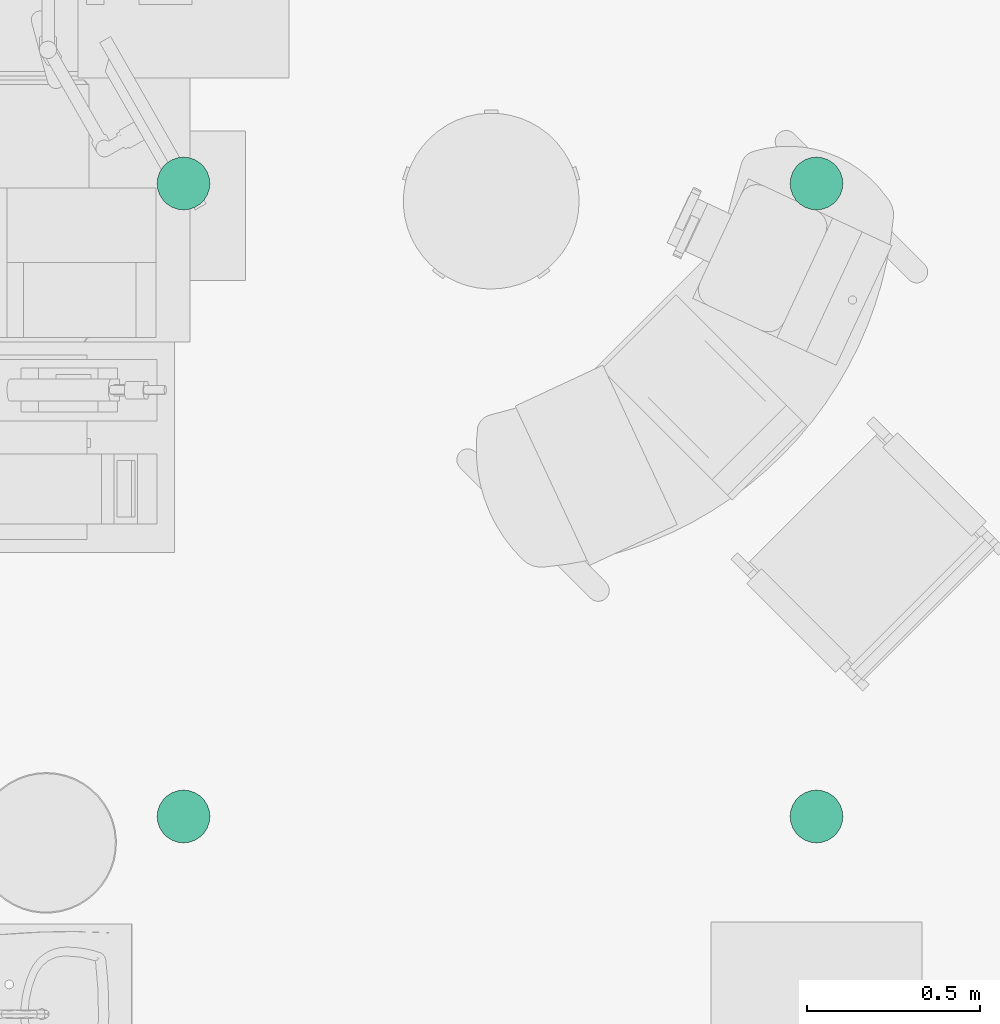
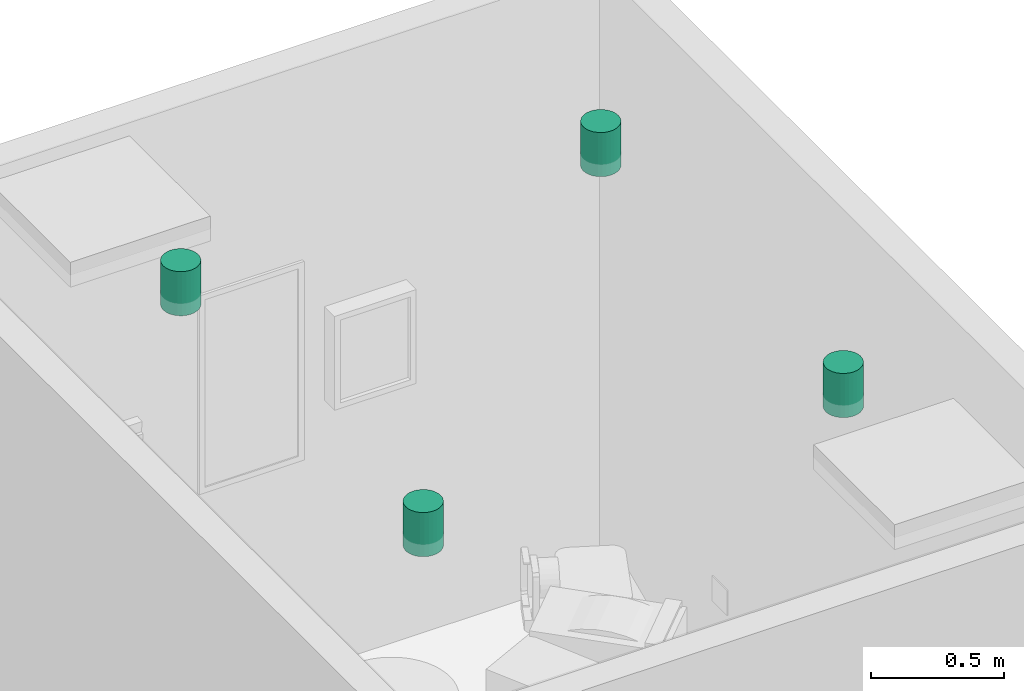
# One storey, part 4 of 12: 4 flow terminals.
"""IFC2X3 building model written with IfcOpenShell, lengths in feet."""

from ifc_helpers import new_model, entity, si_unit, converted_unit, derived_unit, direction, frame, frame_2d, origin, place, context, subcontext, project, spatial, circle, extrude, source, transform, mapped, type_object, type_shapes, element, save


model = new_model("IFC2X3")

# Units and contexts
model_context = context("Model", 3, precision=0.0001, world=origin(), true_north=direction((6.12303176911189e-17, 1.0)))
body_context = subcontext(model_context, "Body", "Model", "MODEL_VIEW")
ifc_project = project(units=[converted_unit("LENGTHUNIT", "FOOT", entity("IfcRatioMeasure", 0.3048), si_unit("LENGTHUNIT", "METRE"), dimensions=[1, 0, 0, 0, 0, 0, 0]), converted_unit("AREAUNIT", "SQUARE FOOT", entity("IfcRatioMeasure", 0.09290304), si_unit("AREAUNIT", "SQUARE_METRE"), dimensions=[2, 0, 0, 0, 0, 0, 0]), converted_unit("VOLUMEUNIT", "CUBIC FOOT", entity("IfcRatioMeasure", 0.028316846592), si_unit("VOLUMEUNIT", "CUBIC_METRE"), dimensions=[3, 0, 0, 0, 0, 0, 0]), converted_unit("PLANEANGLEUNIT", "DEGREE", entity("IfcRatioMeasure", 0.0174532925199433), si_unit("PLANEANGLEUNIT", "RADIAN"), dimensions=[0, 0, 0, 0, 0, 0, 0]), si_unit("MASSUNIT", "GRAM", prefix="KILO"), derived_unit("MASSDENSITYUNIT", [(si_unit("MASSUNIT", "GRAM", prefix="KILO"), 1), (si_unit("LENGTHUNIT", "METRE"), -3)]), si_unit("TIMEUNIT", "SECOND"), si_unit("FREQUENCYUNIT", "HERTZ"), si_unit("THERMODYNAMICTEMPERATUREUNIT", "DEGREE_CELSIUS"), derived_unit("THERMALTRANSMITTANCEUNIT", [(si_unit("MASSUNIT", "GRAM", prefix="KILO"), 1), (si_unit("THERMODYNAMICTEMPERATUREUNIT", "KELVIN"), -1), (si_unit("TIMEUNIT", "SECOND"), -3)]), derived_unit("VOLUMETRICFLOWRATEUNIT", [(si_unit("LENGTHUNIT", "METRE"), 3), (si_unit("TIMEUNIT", "SECOND"), -1)]), si_unit("ELECTRICCURRENTUNIT", "AMPERE"), si_unit("ELECTRICVOLTAGEUNIT", "VOLT"), si_unit("POWERUNIT", "WATT"), si_unit("FORCEUNIT", "NEWTON"), si_unit("ILLUMINANCEUNIT", "LUX"), si_unit("LUMINOUSFLUXUNIT", "LUMEN"), si_unit("LUMINOUSINTENSITYUNIT", "CANDELA"), derived_unit("USERDEFINED", [(si_unit("MASSUNIT", "GRAM", prefix="KILO"), -1), (si_unit("LENGTHUNIT", "METRE"), -2), (si_unit("TIMEUNIT", "SECOND"), 3), (si_unit("LUMINOUSFLUXUNIT", "LUMEN"), 1)]), derived_unit("LINEARVELOCITYUNIT", [(si_unit("LENGTHUNIT", "METRE"), 1), (si_unit("TIMEUNIT", "SECOND"), -1)]), si_unit("PRESSUREUNIT", "PASCAL"), derived_unit("USERDEFINED", [(si_unit("LENGTHUNIT", "METRE"), -2), (si_unit("MASSUNIT", "GRAM", prefix="KILO"), 1), (si_unit("TIMEUNIT", "SECOND"), -2)])], contexts=[model_context])

# Site, building, storey, space
site_placement = place(None, origin())
site = spatial("IfcSite", under=ifc_project, at=site_placement, Name="Default", CompositionType="ELEMENT")
building_placement = place(site_placement, origin())
building = spatial("IfcBuilding", under=site, at=building_placement, Name="EYE CLINIC:  OPTHALMOLOGY AND OPTOMETRY SERVICES (Ch. 233)", CompositionType="ELEMENT")
storey_placement = place(building_placement, origin())
storey = spatial("IfcBuildingStorey", under=building, at=storey_placement, Name="DATUM", CompositionType="ELEMENT", Elevation=0.0)
space_placement = place(storey_placement, origin())
space = spatial("IfcSpace", under=storey, at=space_placement, Name="(OPPT2)", CompositionType="ELEMENT", InteriorOrExteriorSpace="INTERNAL")

# Flow terminals
light_fixture_type = type_object("IfcLightFixtureType", Name="6\"", PredefinedType="NOTDEFINED")
shared_shape = source(origin(), body_context, "Body", "SweptSolid", [
    extrude(circle(Radius=0.25, at=frame_2d((0.0, -3.88578058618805e-16), x_axis=(1.0, 0.0))), frame((0.132132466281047, -0.159583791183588, 7.99242651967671)), (0.0, 0.0, 1.0), 0.666666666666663),
])
type_shapes(light_fixture_type, [shared_shape])
for number, where in (
    (1, (155.507636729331, 31.4672094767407, 1.00757348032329)),
    (2, (155.507636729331, 25.4672094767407, 1.00757348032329)),
    (3, (161.507636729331, 31.4672094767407, 1.00757348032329)),
    (4, (161.507636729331, 25.4672094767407, 1.00757348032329)),
):
    element("IfcFlowTerminal", number, at=place(space_placement, frame(where)), inside=space, type_object=light_fixture_type, Name="Downlight - Recessed Can:6\"", ObjectType="6\"", context=body_context, shape_type="MappedRepresentation", body=[
        mapped(shared_shape, transform((0.0, 0.0, 0.0), scale=1.0)),
    ])

save(model, "model.ifc")
